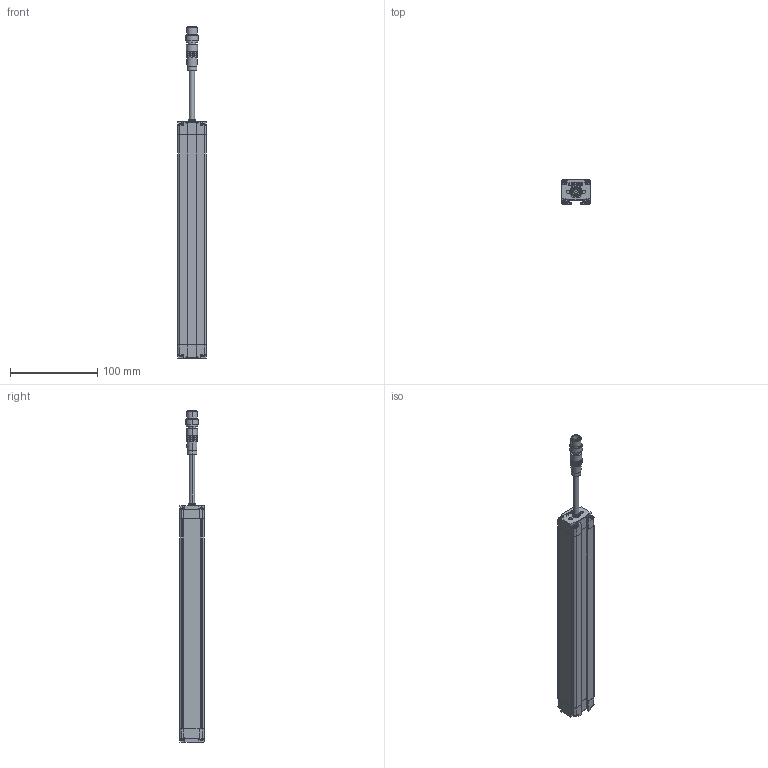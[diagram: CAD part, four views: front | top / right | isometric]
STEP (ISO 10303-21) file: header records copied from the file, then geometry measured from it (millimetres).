
FILE_DESCRIPTION((''),'2;1');
FILE_NAME('SMT1-CGQ_ASM','2025-08-08T08:17:54',('Administrator'),(''),'CREO PARAMETRIC BY PTC INC, 2016510','CREO PARAMETRIC BY PTC INC, 2016510','');
FILE_SCHEMA(('CONFIG_CONTROL_DESIGN'));
Length unit declared in the file: millimetre
Products named in the file (7): SMT1-XINGCAI-V1; SMT1-SDG-V1; SMT1-XDG-V1; M12-CHATOU; ST3X18; CT4-LVGUANGBAN; SMT1-CGQ_ASM
Assembly tree (13 placements, depth 2):
  SMT1-CGQ_ASM
    SMT1-XINGCAI-V1
    SMT1-SDG-V1
    SMT1-XDG-V1
    M12-CHATOU
    ST3X18  x8
    CT4-LVGUANGBAN
Bounding box: 33 x 28.02 x 379.5 mm (x, y, z)
Volume: 215296.5 mm3; surface area: 74479.8 mm2
Topology: 13 solids, 13 shells, 712 faces, 1868 edges, 1200 vertices
Faces by surface type: plane 382, cylinder 184, extrusion 86, sphere 32, cone 20, bspline 8
Entity records: 18128 total; most frequent: CARTESIAN_POINT 4347, ORIENTED_EDGE 2916, DIRECTION 2580, EDGE_CURVE 1458, VECTOR 1036, VERTEX_POINT 955, LINE 950, AXIS2_PLACEMENT_3D 772
